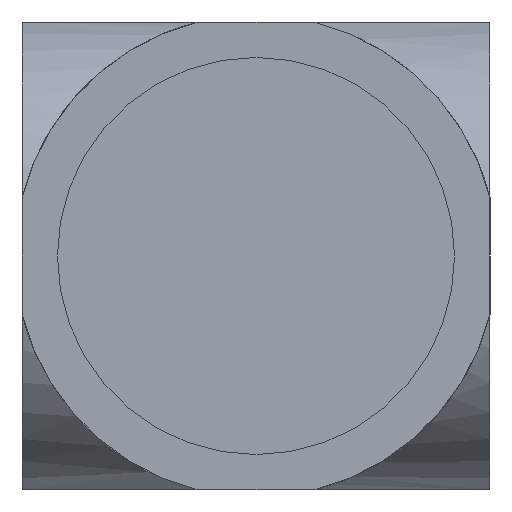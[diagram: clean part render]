
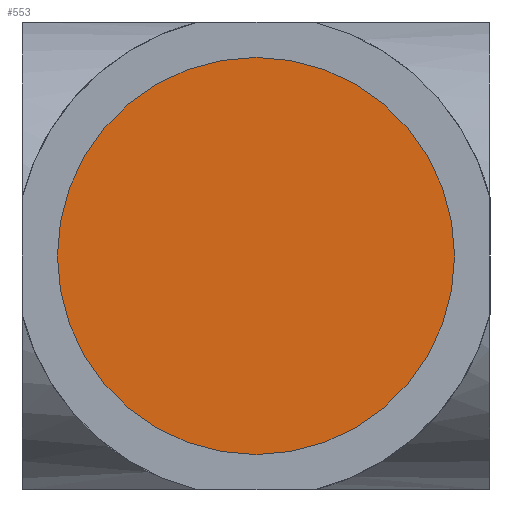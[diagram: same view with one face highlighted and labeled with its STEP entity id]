
A CAD part, left-side view. The second image highlights one B-rep face of the part: STEP entity #553.
In plain terms, the highlighted planar face has unit normal (-1, 0, 0).
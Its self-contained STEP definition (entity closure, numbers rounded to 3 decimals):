
#2 = DIRECTION ( 'NONE',  ( 0., 0., -1. ) ) ;
#37 = FACE_OUTER_BOUND ( 'NONE', #874, .T. ) ;
#120 = ORIENTED_EDGE ( 'NONE', *, *, #337, .F. ) ;
#143 = CARTESIAN_POINT ( 'NONE',  ( -20., 0., -14. ) ) ;
#225 = CARTESIAN_POINT ( 'NONE',  ( -20., 0., 14. ) ) ;
#272 = DIRECTION ( 'NONE',  ( 0., 0., -1. ) ) ;
#276 = CARTESIAN_POINT ( 'NONE',  ( -20., 0., 0. ) ) ;
#337 = EDGE_CURVE ( 'NONE', #774, #726, #486, .T. ) ;
#342 = AXIS2_PLACEMENT_3D ( 'NONE', #965, #516, #272 ) ;
#458 = CIRCLE ( 'NONE', #622, 14. ) ;
#486 = CIRCLE ( 'NONE', #342, 14. ) ;
#504 = AXIS2_PLACEMENT_3D ( 'NONE', #276, #825, #667 ) ;
#509 = PLANE ( 'NONE',  #504 ) ;
#516 = DIRECTION ( 'NONE',  ( 1., 0., 0. ) ) ;
#553 = ADVANCED_FACE ( 'NONE', ( #37 ), #509, .T. ) ;
#622 = AXIS2_PLACEMENT_3D ( 'NONE', #829, #853, #2 ) ;
#667 = DIRECTION ( 'NONE',  ( 0., 0., -1. ) ) ;
#717 = EDGE_CURVE ( 'NONE', #726, #774, #458, .T. ) ;
#726 = VERTEX_POINT ( 'NONE', #143 ) ;
#774 = VERTEX_POINT ( 'NONE', #225 ) ;
#825 = DIRECTION ( 'NONE',  ( -1., 0., 0. ) ) ;
#829 = CARTESIAN_POINT ( 'NONE',  ( -20., 0., 0. ) ) ;
#853 = DIRECTION ( 'NONE',  ( 1., 0., 0. ) ) ;
#874 = EDGE_LOOP ( 'NONE', ( #120, #906 ) ) ;
#906 = ORIENTED_EDGE ( 'NONE', *, *, #717, .F. ) ;
#965 = CARTESIAN_POINT ( 'NONE',  ( -20., 0., 0. ) ) ;
